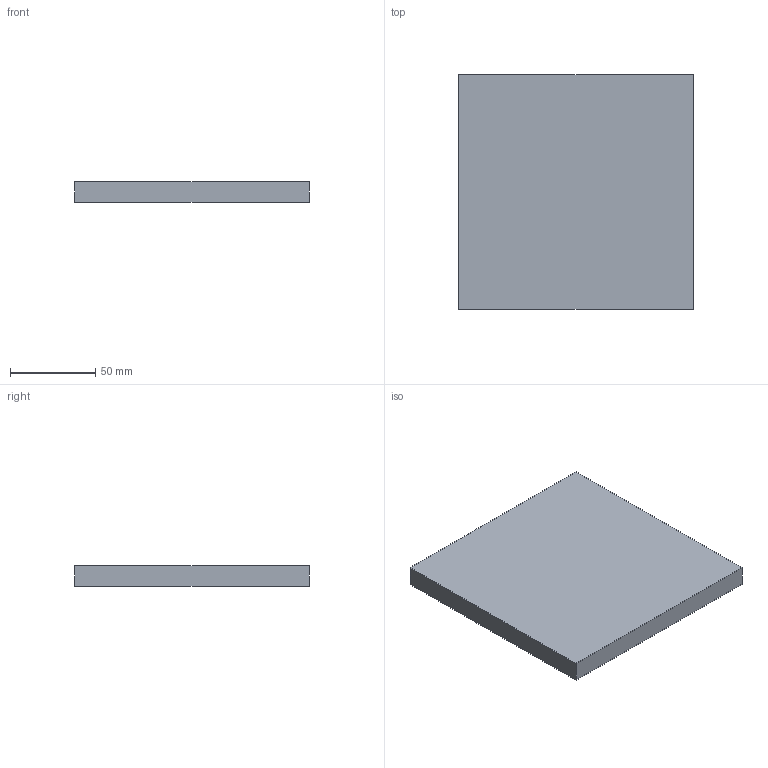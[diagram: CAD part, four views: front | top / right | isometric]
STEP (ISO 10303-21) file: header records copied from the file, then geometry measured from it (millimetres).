
FILE_DESCRIPTION(('Open CASCADE Model'),'2;1');
FILE_NAME('Open CASCADE Shape Model','2026-10-19T10:09:21',('Author'),( 'Open CASCADE'),'Open CASCADE STEP processor 8.0','Open CASCADE 8.0' ,'Unknown');
FILE_SCHEMA(('AUTOMOTIVE_DESIGN { 1 0 10303 214 1 1 1 1 }'));
Length unit declared in the file: millimetre
Products named in the file (1): GRID_DIAFRAGMA_HUP_138x138x12_P05 140
Bounding box: 138 x 138 x 12 mm (x, y, z)
Volume: 228528 mm3; surface area: 44712 mm2
Topology: 1 solids, 1 shells, 6 faces, 12 edges, 8 vertices
Faces by surface type: plane 6
Entity records: 322 total; most frequent: CARTESIAN_POINT 51, DIRECTION 50, LINE 36, VECTOR 36, ORIENTED_EDGE 24, PCURVE 24, DEFINITIONAL_REPRESENTATION 24, EDGE_CURVE 12
